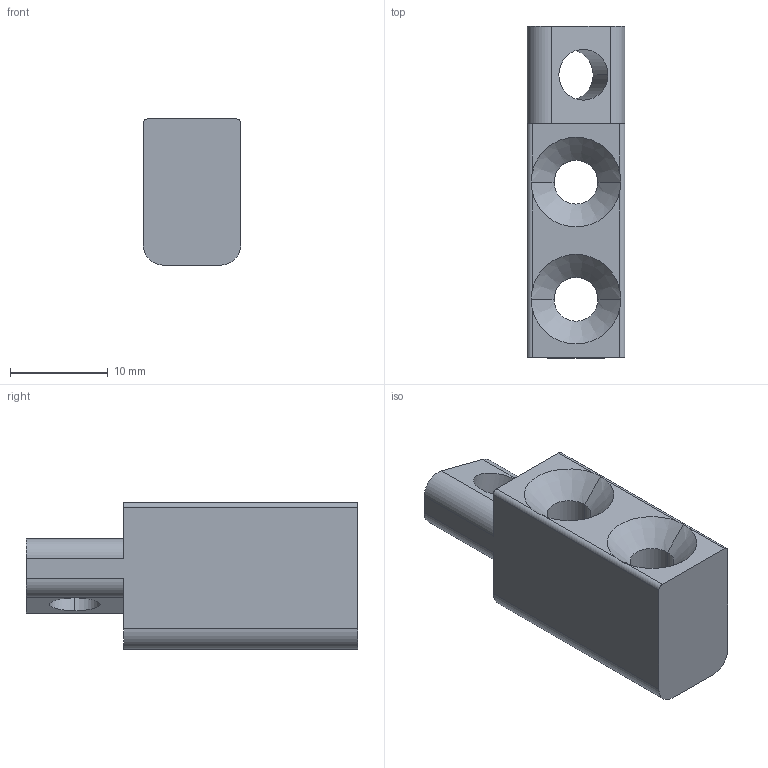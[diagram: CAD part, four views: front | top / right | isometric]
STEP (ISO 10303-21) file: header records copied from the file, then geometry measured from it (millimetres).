
FILE_DESCRIPTION (( 'STEP AP203' ), '1' );
FILE_NAME ('SH36008-Sensorhalter.STEP', '2019-02-01T12:38:39', ( '' ), ( '' ), 'SwSTEP 2.0', 'SolidWorks 2016', '' );
FILE_SCHEMA (( 'CONFIG_CONTROL_DESIGN' ));
Length unit declared in the file: millimetre
Products named in the file (1): SH36008-Sensorhalter
Bounding box: 10 x 34 x 15 mm (x, y, z)
Volume: 3423.6 mm3; surface area: 2125 mm2
Topology: 1 solids, 1 shells, 31 faces, 89 edges, 58 vertices
Faces by surface type: cylinder 15, plane 12, cone 4
Entity records: 1122 total; most frequent: CARTESIAN_POINT 203, DIRECTION 179, ORIENTED_EDGE 178, EDGE_CURVE 89, AXIS2_PLACEMENT_3D 66, VERTEX_POINT 58, VECTOR 47, LINE 47
